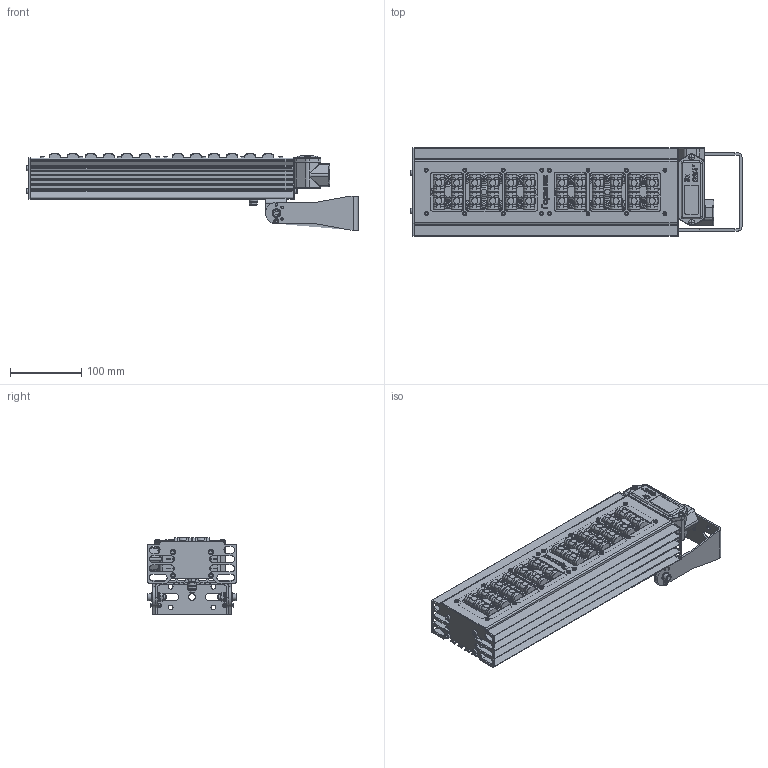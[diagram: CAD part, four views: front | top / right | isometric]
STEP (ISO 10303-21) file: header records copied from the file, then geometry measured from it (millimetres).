
FILE_DESCRIPTION (( 'STEP AP203' ), '1' );
FILE_NAME ('ﾑﾃﾓ06-3720ﾑ_220AC_ﾓ.STEP', '2021-06-18T13:28:58', ( '' ), ( '' ), 'SwSTEP 2.0', 'SolidWorks 2018', '' );
FILE_SCHEMA (( 'CONFIG_CONTROL_DESIGN' ));
Products named in the file (1): ﾑﾃﾓ06-3720ﾑ_220AC_ﾓ
Bounding box: 467.5 x 125.2 x 107.3 mm (x, y, z)
Volume: 1643659.1 mm3; surface area: 518324.7 mm2
Topology: 1 solids, 1 shells, 3318 faces, 9184 edges, 5906 vertices
Faces by surface type: plane 1292, cylinder 697, bspline 478, torus 468, cone 365, sphere 18
Full cylindrical faces by diameter (mm): 2.5 x16, 3 x4, 3.2 x4, 3.5 x22, 4 x8, 4.5 x8, 5.5 x18, 6 x9, 6.4 x7, 6.5 x4, 7 x18, 8 x2, 9 x1, 10 x2, 12 x7, 24.1 x2
Entity records: 143558 total; most frequent: CARTESIAN_POINT 65800, ORIENTED_EDGE 17546, DIRECTION 14076, EDGE_CURVE 8773, VERTEX_POINT 5760, AXIS2_PLACEMENT_3D 5239, EDGE_LOOP 3783, VECTOR 3598
